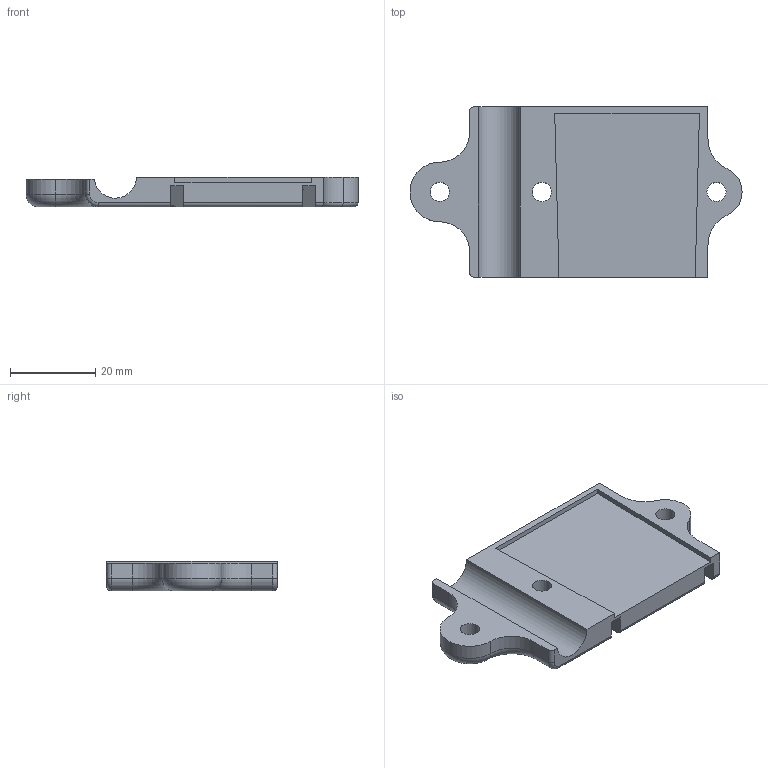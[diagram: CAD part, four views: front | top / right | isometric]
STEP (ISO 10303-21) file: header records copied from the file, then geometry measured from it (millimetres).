
FILE_DESCRIPTION((''),'2;1');
FILE_NAME('D:\Data\Documents\Studium\10.Semester\Studienarbeit\Design\Kamerahalter Unterseite.stp','2016-07-12T23:09:49',('Fabian'),(''),'Autodesk Inventor 2013','Autodesk Inventor 2013','');
FILE_SCHEMA(('AUTOMOTIVE_DESIGN { 1 0 10303 214 1 1 1 1 }'));
Length unit declared in the file: millimetre
Products named in the file (1): Kamerahalter Unterseite
Bounding box: 78 x 40 x 7 mm (x, y, z)
Volume: 13494.5 mm3; surface area: 7062 mm2
Topology: 1 solids, 1 shells, 70 faces, 226 edges, 193 vertices
Faces by surface type: plane 42, cylinder 20, torus 8
Full cylindrical faces by diameter (mm): 4.5 x3
Entity records: 2640 total; most frequent: CARTESIAN_POINT 470, DIRECTION 418, ORIENTED_EDGE 370, EDGE_CURVE 185, VECTOR 158, LINE 158, AXIS2_PLACEMENT_3D 130, VERTEX_POINT 120
